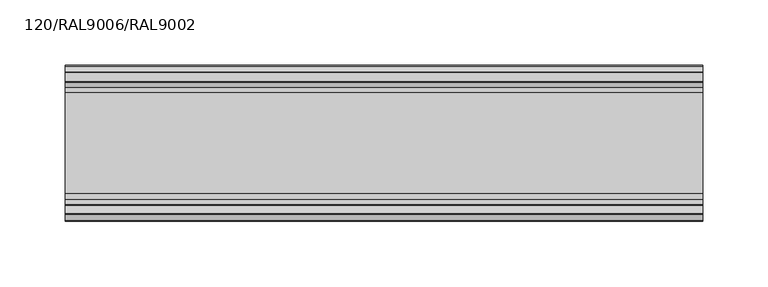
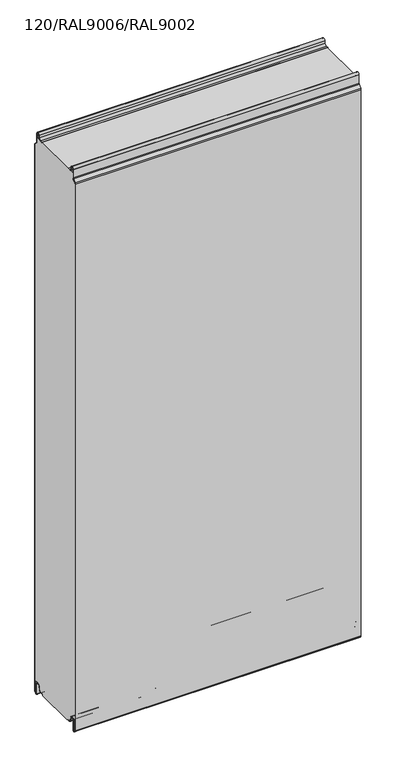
"""IFC4 building model written with IfcOpenShell, lengths in millimetres: plate geometry, TR_C_H_FTV_Panel : 120/RAL9006/RAL9002."""

from ifc_helpers import new_model, si_unit, point, frame, frame_2d, origin, place, context, project, spatial, polyline, circle_curve, trimmed, segment, composite_curve, outline, extrude, source, transform, mapped, element, save


def plate_120_ral9006_ral9002_dde24b33(model_context):
    return source(origin(), model_context, "Body", "SweptSolid", [
        extrude(outline(composite_curve([segment(polyline([(-0.8, 14.4000012), (-9.45, 14.4000012)]), True, "CONTINUOUS"), segment(trimmed(circle_curve(frame_2d((-9.45, 10.1500012)), 4.25), [point((-9.45, 14.4000012))], [point((-13.635433, 10.8880059))], True, "CARTESIAN"), True, "CONTINUOUS"), segment(polyline([(-13.635433, 10.8880059), (-14.7022582, 4.837739)]), True, "CONTINUOUS"), segment(trimmed(circle_curve(frame_2d((-17.6074411, 5.3500012)), 2.95), [point((-14.7022582, 4.837739))], [point((-17.6074411, 2.4000012))], False, "CARTESIAN"), True, "CONTINUOUS"), segment(polyline([(-17.6074411, 2.4000012), (-23.7, 2.4000012), (-23.7, 1.2e-06), (-96.3, 1.2e-06), (-96.3, 2.4000012), (-102.3925589, 2.4000012)]), True, "CONTINUOUS"), segment(trimmed(circle_curve(frame_2d((-102.3925589, 5.3500012)), 2.95), [point((-102.3925589, 2.4000012))], [point((-105.2977418, 4.837739))], False, "CARTESIAN"), True, "CONTINUOUS"), segment(polyline([(-105.2977418, 4.837739), (-106.364567, 10.8880059)]), True, "CONTINUOUS"), segment(trimmed(circle_curve(frame_2d((-110.55, 10.1500012)), 4.25), [point((-106.364567, 10.8880059))], [point((-110.55, 14.4000012))], True, "CARTESIAN"), True, "CONTINUOUS"), segment(polyline([(-110.55, 14.4000012), (-119.2, 14.4000012), (-119.2, 984.3218266)]), True, "CONTINUOUS"), segment(trimmed(circle_curve(frame_2d((-117.0, 984.3218266)), 2.2), [point((-119.2, 984.3218266))], [point((-118.5556349, 985.8774615))], False, "CARTESIAN"), True, "CONTINUOUS"), segment(polyline([(-118.5556349, 985.8774615), (-114.1665476, 990.2665488)]), True, "CONTINUOUS"), segment(trimmed(circle_curve(frame_2d((-116.5, 992.6000012)), 3.3), [point((-114.1665476, 990.2665488))], [point((-113.2, 992.6000012))], True, "CARTESIAN"), True, "CONTINUOUS"), segment(polyline([(-113.2, 992.6000012), (-113.2, 1000.0), (-6.8, 1000.0), (-6.8, 992.6000012)]), True, "CONTINUOUS"), segment(trimmed(circle_curve(frame_2d((-3.5, 992.6000012)), 3.3), [point((-6.8, 992.6000012))], [point((-5.8334524, 990.2665488))], True, "CARTESIAN"), True, "CONTINUOUS"), segment(polyline([(-5.8334524, 990.2665488), (-1.4443651, 985.8774615)]), True, "CONTINUOUS"), segment(trimmed(circle_curve(frame_2d((-3.0, 984.3218266)), 2.2), [point((-1.4443651, 985.8774615))], [point((-0.8, 984.3218266))], False, "CARTESIAN"), True, "CONTINUOUS"), segment(polyline([(-0.8, 984.3218266), (-0.8, 14.4000012)]), True, "CONTINUOUS")], self_intersect=False)), frame((-245.0, 0.0, 0.0), z_axis=(1.0, 0.0, 0.0), x_axis=(0.0, 1.0, 0.0)), (0.0, 0.0, 1.0), 490.0),
        extrude(outline(composite_curve([segment(polyline([(-21.0, 2.4000012), (-17.6074411, 2.4000012)]), True, "CONTINUOUS"), segment(trimmed(circle_curve(frame_2d((-17.6074411, 5.3500012)), 2.95), [point((-17.6074411, 2.4000012))], [point((-14.7022582, 4.837739))], True, "CARTESIAN"), True, "CONTINUOUS"), segment(polyline([(-14.7022582, 4.837739), (-13.635433, 10.8880059)]), True, "CONTINUOUS"), segment(trimmed(circle_curve(frame_2d((-9.45, 10.1500012)), 4.25), [point((-13.635433, 10.8880059))], [point((-5.2, 10.1500012))], False, "CARTESIAN"), True, "CONTINUOUS"), segment(polyline([(-5.2, 10.1500012), (-5.2, -7.4499988)]), True, "CONTINUOUS"), segment(trimmed(circle_curve(frame_2d((-4.05, -7.4499988)), 1.15), [point((-5.2, -7.4499988))], [point((-3.2368272, -8.2631716))], True, "CARTESIAN"), True, "CONTINUOUS"), segment(polyline([(-3.2368272, -8.2631716), (-1.3711418, -6.3974862)]), True, "CONTINUOUS"), segment(trimmed(circle_curve(frame_2d((-2.75, -5.018628)), 1.95), [point((-1.3711418, -6.3974862))], [point((-0.8, -5.018628))], True, "CARTESIAN"), True, "CONTINUOUS"), segment(polyline([(-0.8, -5.018628), (-0.8, 984.3218266)]), True, "CONTINUOUS"), segment(trimmed(circle_curve(frame_2d((-3.0, 984.3218266)), 2.2), [point((-0.8, 984.3218266))], [point((-1.4443651, 985.8774615))], True, "CARTESIAN"), True, "CONTINUOUS"), segment(polyline([(-1.4443651, 985.8774615), (-5.8334524, 990.2665488)]), True, "CONTINUOUS"), segment(trimmed(circle_curve(frame_2d((-3.5, 992.6000012)), 3.3), [point((-5.8334524, 990.2665488))], [point((-6.8, 992.6000012))], False, "CARTESIAN"), True, "CONTINUOUS"), segment(polyline([(-6.8, 992.6000012), (-6.8, 1007.3500012)]), True, "CONTINUOUS"), segment(trimmed(circle_curve(frame_2d((-9.25, 1007.3500012)), 2.45), [point((-6.8, 1007.3500012))], [point((-11.662779, 1007.7754392))], True, "CARTESIAN"), True, "CONTINUOUS"), segment(polyline([(-11.662779, 1007.7754392), (-12.4060919, 1003.559902)]), True, "CONTINUOUS"), segment(trimmed(circle_curve(frame_2d((-16.8869672, 1004.3500012)), 4.55), [point((-12.4060919, 1003.559902))], [point((-16.8869672, 999.8000012))], False, "CARTESIAN"), True, "CONTINUOUS"), segment(polyline([(-16.8869672, 999.8000012), (-21.0, 999.8000012), (-21.0, 1000.6000012), (-16.8869672, 1000.6000012)]), True, "CONTINUOUS"), segment(trimmed(circle_curve(frame_2d((-16.8869672, 1004.3500012)), 3.75), [point((-16.8869672, 1000.6000012))], [point((-13.1939382, 1003.6988205))], True, "CARTESIAN"), True, "CONTINUOUS"), segment(polyline([(-13.1939382, 1003.6988205), (-12.4506252, 1007.9143577)]), True, "CONTINUOUS"), segment(trimmed(circle_curve(frame_2d((-9.25, 1007.3500012)), 3.25), [point((-12.4506252, 1007.9143577))], [point((-6.0, 1007.3500012))], False, "CARTESIAN"), True, "CONTINUOUS"), segment(polyline([(-6.0, 1007.3500012), (-6.0, 992.6000012)]), True, "CONTINUOUS"), segment(trimmed(circle_curve(frame_2d((-3.5, 992.6000012)), 2.5), [point((-6.0, 992.6000012))], [point((-5.267767, 990.8322342))], True, "CARTESIAN"), True, "CONTINUOUS"), segment(polyline([(-5.267767, 990.8322342), (-0.8786797, 986.4431469)]), True, "CONTINUOUS"), segment(trimmed(circle_curve(frame_2d((-3.0, 984.3218266)), 3.0), [point((-0.8786797, 986.4431469))], [point((0.0, 984.3218266))], False, "CARTESIAN"), True, "CONTINUOUS"), segment(polyline([(0.0, 984.3218266), (0.0, -5.018628)]), True, "CONTINUOUS"), segment(trimmed(circle_curve(frame_2d((-2.75, -5.018628)), 2.75), [point((0.0, -5.018628))], [point((-0.8054564, -6.9631716))], False, "CARTESIAN"), True, "CONTINUOUS"), segment(polyline([(-0.8054564, -6.9631716), (-2.6711418, -8.8288571)]), True, "CONTINUOUS"), segment(trimmed(circle_curve(frame_2d((-4.05, -7.4499988)), 1.95), [point((-2.6711418, -8.8288571))], [point((-6.0, -7.4499988))], False, "CARTESIAN"), True, "CONTINUOUS"), segment(polyline([(-6.0, -7.4499988), (-6.0, 10.1500012)]), True, "CONTINUOUS"), segment(trimmed(circle_curve(frame_2d((-9.45, 10.1500012)), 3.45), [point((-6.0, 10.1500012))], [point((-12.8475867, 10.7490874))], True, "CARTESIAN"), True, "CONTINUOUS"), segment(polyline([(-12.8475867, 10.7490874), (-13.914412, 4.6988205)]), True, "CONTINUOUS"), segment(trimmed(circle_curve(frame_2d((-17.6074411, 5.3500012)), 3.75), [point((-13.914412, 4.6988205))], [point((-17.6074411, 1.6000012))], False, "CARTESIAN"), True, "CONTINUOUS"), segment(polyline([(-17.6074411, 1.6000012), (-21.0, 1.6000012), (-21.0, 2.4000012)]), True, "CONTINUOUS")], self_intersect=False)), frame((-245.0, 0.0, 0.0), z_axis=(1.0, 0.0, 0.0), x_axis=(0.0, 1.0, 0.0)), (0.0, 0.0, 1.0), 490.0),
        extrude(outline(composite_curve([segment(trimmed(circle_curve(frame_2d((-103.1130328, 1004.3500012)), 4.55), [point((-103.1130328, 999.8000012))], [point((-107.5939081, 1003.559902))], False, "CARTESIAN"), True, "CONTINUOUS"), segment(polyline([(-107.5939081, 1003.559902), (-108.337221, 1007.7754392)]), True, "CONTINUOUS"), segment(trimmed(circle_curve(frame_2d((-110.75, 1007.3500012)), 2.45), [point((-108.337221, 1007.7754392))], [point((-113.2, 1007.3500012))], True, "CARTESIAN"), True, "CONTINUOUS"), segment(polyline([(-113.2, 1007.3500012), (-113.2, 992.6000012)]), True, "CONTINUOUS"), segment(trimmed(circle_curve(frame_2d((-116.5, 992.6000012)), 3.3), [point((-113.2, 992.6000012))], [point((-114.1665476, 990.2665488))], False, "CARTESIAN"), True, "CONTINUOUS"), segment(polyline([(-114.1665476, 990.2665488), (-118.5556349, 985.8774615)]), True, "CONTINUOUS"), segment(trimmed(circle_curve(frame_2d((-117.0, 984.3218266)), 2.2), [point((-118.5556349, 985.8774615))], [point((-119.2, 984.3218266))], True, "CARTESIAN"), True, "CONTINUOUS"), segment(polyline([(-119.2, 984.3218266), (-119.2, -5.018628)]), True, "CONTINUOUS"), segment(trimmed(circle_curve(frame_2d((-117.25, -5.018628)), 1.95), [point((-119.2, -5.018628))], [point((-118.6288582, -6.3974862))], True, "CARTESIAN"), True, "CONTINUOUS"), segment(polyline([(-118.6288582, -6.3974862), (-116.7631728, -8.2631716)]), True, "CONTINUOUS"), segment(trimmed(circle_curve(frame_2d((-115.95, -7.4499988)), 1.15), [point((-116.7631728, -8.2631716))], [point((-114.8, -7.4499988))], True, "CARTESIAN"), True, "CONTINUOUS"), segment(polyline([(-114.8, -7.4499988), (-114.8, 10.1500012)]), True, "CONTINUOUS"), segment(trimmed(circle_curve(frame_2d((-110.55, 10.1500012)), 4.25), [point((-114.8, 10.1500012))], [point((-106.364567, 10.8880059))], False, "CARTESIAN"), True, "CONTINUOUS"), segment(polyline([(-106.364567, 10.8880059), (-105.2977418, 4.837739)]), True, "CONTINUOUS"), segment(trimmed(circle_curve(frame_2d((-102.3925589, 5.3500012)), 2.95), [point((-105.2977418, 4.837739))], [point((-102.3925589, 2.4000012))], True, "CARTESIAN"), True, "CONTINUOUS"), segment(polyline([(-102.3925589, 2.4000012), (-99.0, 2.4000012), (-99.0, 1.6000012), (-102.3925589, 1.6000012)]), True, "CONTINUOUS"), segment(trimmed(circle_curve(frame_2d((-102.3925589, 5.3500012)), 3.75), [point((-102.3925589, 1.6000012))], [point((-106.085588, 4.6988205))], False, "CARTESIAN"), True, "CONTINUOUS"), segment(polyline([(-106.085588, 4.6988205), (-107.1524133, 10.7490874)]), True, "CONTINUOUS"), segment(trimmed(circle_curve(frame_2d((-110.55, 10.1500012)), 3.45), [point((-107.1524133, 10.7490874))], [point((-114.0, 10.1500012))], True, "CARTESIAN"), True, "CONTINUOUS"), segment(polyline([(-114.0, 10.1500012), (-114.0, -7.4499988)]), True, "CONTINUOUS"), segment(trimmed(circle_curve(frame_2d((-115.95, -7.4499988)), 1.95), [point((-114.0, -7.4499988))], [point((-117.3288582, -8.8288571))], False, "CARTESIAN"), True, "CONTINUOUS"), segment(polyline([(-117.3288582, -8.8288571), (-119.1945436, -6.9631716)]), True, "CONTINUOUS"), segment(trimmed(circle_curve(frame_2d((-117.25, -5.018628)), 2.75), [point((-119.1945436, -6.9631716))], [point((-120.0, -5.018628))], False, "CARTESIAN"), True, "CONTINUOUS"), segment(polyline([(-120.0, -5.018628), (-120.0, 984.3218266)]), True, "CONTINUOUS"), segment(trimmed(circle_curve(frame_2d((-117.0, 984.3218266)), 3.0), [point((-120.0, 984.3218266))], [point((-119.1213203, 986.4431469))], False, "CARTESIAN"), True, "CONTINUOUS"), segment(polyline([(-119.1213203, 986.4431469), (-114.732233, 990.8322342)]), True, "CONTINUOUS"), segment(trimmed(circle_curve(frame_2d((-116.5, 992.6000012)), 2.5), [point((-114.732233, 990.8322342))], [point((-114.0, 992.6000012))], True, "CARTESIAN"), True, "CONTINUOUS"), segment(polyline([(-114.0, 992.6000012), (-114.0, 1007.3500012)]), True, "CONTINUOUS"), segment(trimmed(circle_curve(frame_2d((-110.75, 1007.3500012)), 3.25), [point((-114.0, 1007.3500012))], [point((-107.5493748, 1007.9143577))], False, "CARTESIAN"), True, "CONTINUOUS"), segment(polyline([(-107.5493748, 1007.9143577), (-106.8060618, 1003.6988205)]), True, "CONTINUOUS"), segment(trimmed(circle_curve(frame_2d((-103.1130328, 1004.3500012)), 3.75), [point((-106.8060618, 1003.6988205))], [point((-103.1130328, 1000.6000012))], True, "CARTESIAN"), True, "CONTINUOUS"), segment(polyline([(-103.1130328, 1000.6000012), (-99.0, 1000.6000012), (-99.0, 999.8000012), (-103.1130328, 999.8000012)]), True, "CONTINUOUS")], self_intersect=False)), frame((-245.0, 0.0, 0.0), z_axis=(1.0, 0.0, 0.0), x_axis=(0.0, 1.0, 0.0)), (0.0, 0.0, 1.0), 490.0),
    ])


if __name__ == "__main__":
    model = new_model("IFC4")
    model_context = context("Model", 3, world=origin())
    ifc_project = project(units=[si_unit("LENGTHUNIT", "METRE", prefix="MILLI")], contexts=[model_context])
    site = spatial("IfcSite", under=ifc_project)
    building = spatial("IfcBuilding", under=site)
    placement = place(None, origin())
    plate_120_ral9006_ral9002_shape = plate_120_ral9006_ral9002_dde24b33(model_context)
    element("IfcPlate", 1, ObjectType="TR_C_H_FTV_Panel : 120/RAL9006/RAL9002", at=placement, inside=building, context=model_context, shape_type="MappedRepresentation", body=[
        mapped(plate_120_ral9006_ral9002_shape, transform((0.0, 0.0, 0.0), x_axis=(1.0, 0.0, 0.0), y_axis=(0.0, 1.0, 0.0), z_axis=(0.0, 0.0, 1.0))),
    ])
    save(model, "model.ifc")
